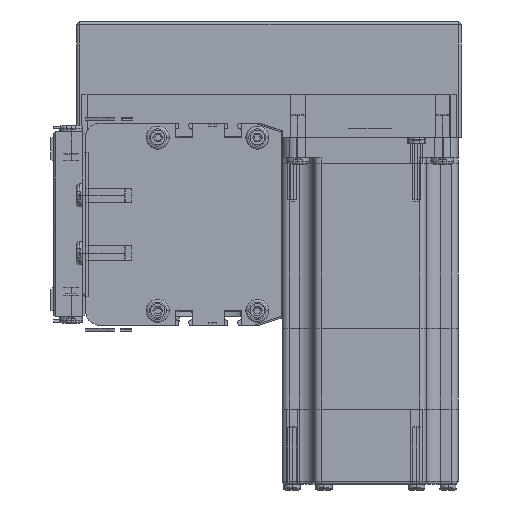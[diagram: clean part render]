
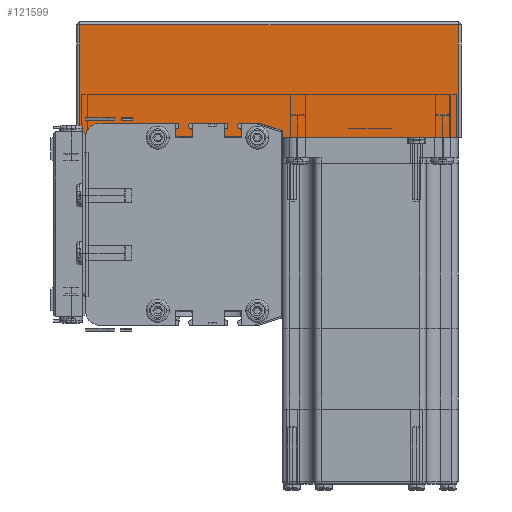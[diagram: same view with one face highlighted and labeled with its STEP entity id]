
A CAD part, left-side view. The second image highlights one B-rep face of the part: STEP entity #121599.
In plain terms, the highlighted planar face has unit normal (-1, 0, 0) as drawn and (0, 1, 0) by its records, which use the part's own axes.
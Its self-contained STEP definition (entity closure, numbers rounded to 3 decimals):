
#96783 = LINE ( 'NONE', #96876, #96800 ) ;
#96800 = VECTOR ( 'NONE', #96875, 1000. ) ;
#96875 = DIRECTION ( 'NONE',  ( -1., 0., 0. ) ) ;
#96876 = CARTESIAN_POINT ( 'NONE',  ( 0., 62., 0. ) ) ;
#102452 = CARTESIAN_POINT ( 'NONE',  ( 1., 62., 0. ) ) ;
#102454 = CARTESIAN_POINT ( 'NONE',  ( 132., 62., 0. ) ) ;
#102495 = DIRECTION ( 'NONE',  ( 1., 0., 0. ) ) ;
#102497 = VECTOR ( 'NONE', #102495, 1000. ) ;
#102499 = CARTESIAN_POINT ( 'NONE',  ( 0., 62., 39. ) ) ;
#102500 = LINE ( 'NONE', #102499, #102497 ) ;
#102695 = CARTESIAN_POINT ( 'NONE',  ( 1., 62., 39. ) ) ;
#102714 = CARTESIAN_POINT ( 'NONE',  ( 132., 62., 39. ) ) ;
#102831 = CARTESIAN_POINT ( 'NONE',  ( 0., 62., 40. ) ) ;
#102842 = PLANE ( 'NONE',  #102935 ) ;
#102896 = DIRECTION ( 'NONE',  ( 0., 0., -1. ) ) ;
#102897 = VECTOR ( 'NONE', #102896, 1000. ) ;
#102898 = CARTESIAN_POINT ( 'NONE',  ( 132., 62., 40. ) ) ;
#102919 = DIRECTION ( 'NONE',  ( 0., 0., -1. ) ) ;
#102921 = DIRECTION ( 'NONE',  ( 0., -1., 0. ) ) ;
#102935 = AXIS2_PLACEMENT_3D ( 'NONE', #102831, #102921, #102919 ) ;
#102937 = LINE ( 'NONE', #102898, #102897 ) ;
#102947 = FACE_OUTER_BOUND ( 'NONE', #121721, .T. ) ;
#102977 = DIRECTION ( 'NONE',  ( 0., 0., 1. ) ) ;
#102978 = VECTOR ( 'NONE', #102977, 1000. ) ;
#102979 = CARTESIAN_POINT ( 'NONE',  ( 1., 62., 40. ) ) ;
#102980 = LINE ( 'NONE', #102979, #102978 ) ;
#119941 = EDGE_CURVE ( 'NONE', #120928, #120930, #96783, .T. ) ;
#120928 = VERTEX_POINT ( 'NONE', #102454 ) ;
#120930 = VERTEX_POINT ( 'NONE', #102452 ) ;
#121480 = EDGE_CURVE ( 'NONE', #121562, #121563, #102500, .T. ) ;
#121562 = VERTEX_POINT ( 'NONE', #102695 ) ;
#121563 = VERTEX_POINT ( 'NONE', #102714 ) ;
#121599 = ADVANCED_FACE ( 'NONE', ( #102947 ), #102842, .F. ) ;
#121602 = ORIENTED_EDGE ( 'NONE', *, *, #121604, .T. ) ;
#121603 = ORIENTED_EDGE ( 'NONE', *, *, #121480, .T. ) ;
#121604 = EDGE_CURVE ( 'NONE', #121563, #120928, #102937, .T. ) ;
#121608 = EDGE_CURVE ( 'NONE', #120930, #121562, #102980, .T. ) ;
#121617 = ORIENTED_EDGE ( 'NONE', *, *, #121608, .T. ) ;
#121619 = ORIENTED_EDGE ( 'NONE', *, *, #119941, .T. ) ;
#121721 = EDGE_LOOP ( 'NONE', ( #121603, #121602, #121619, #121617 ) ) ;
